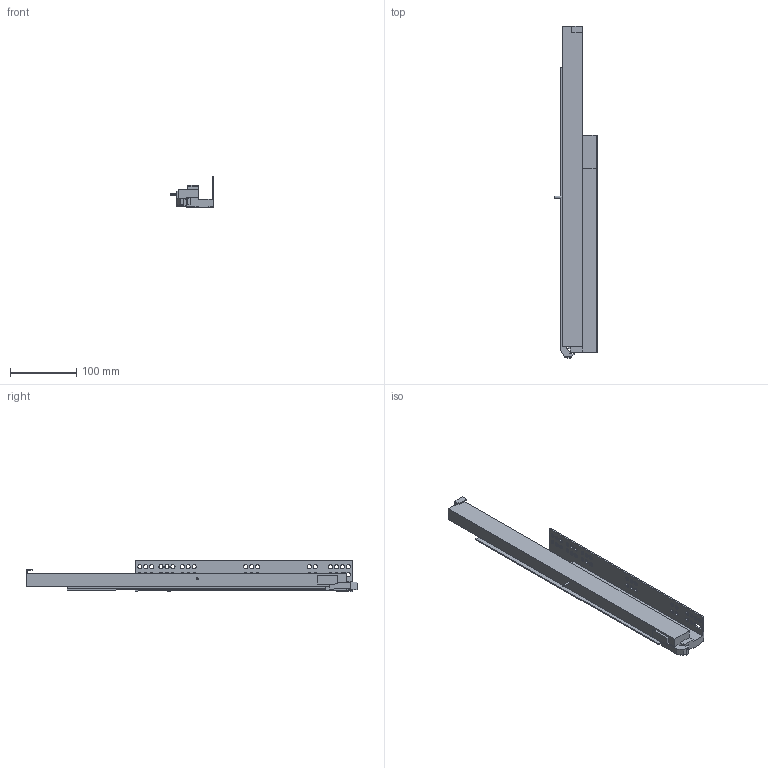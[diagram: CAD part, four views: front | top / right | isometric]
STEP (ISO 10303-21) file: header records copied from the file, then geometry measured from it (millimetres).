
FILE_DESCRIPTION (( 'STEP AP203' ), '1' );
FILE_NAME ('IMOS_Dynapro_Tipmatic_D51_NL_0_RE.STEP', '2013-03-22T12:08:46', ( 'Grass GmbH' ), ( 'Grass GmbH' ), 'SwSTEP 2.0', 'SolidWorks 2012', '' );
FILE_SCHEMA (( 'CONFIG_CONTROL_DESIGN' ));
Length unit declared in the file: millimetre
Products named in the file (1): IMOS_Dynapro_Tipmatic_D51_NL_0_RE
Bounding box: 65.92 x 501.55 x 47.53 mm (x, y, z)
Volume: 459123.3 mm3; surface area: 108190.6 mm2
Topology: 1 solids, 1 shells, 173 faces, 497 edges, 331 vertices
Faces by surface type: plane 96, cylinder 77
Entity records: 5914 total; most frequent: CARTESIAN_POINT 1002, DIRECTION 999, ORIENTED_EDGE 994, EDGE_CURVE 497, VECTOR 343, LINE 343, VERTEX_POINT 331, AXIS2_PLACEMENT_3D 328
